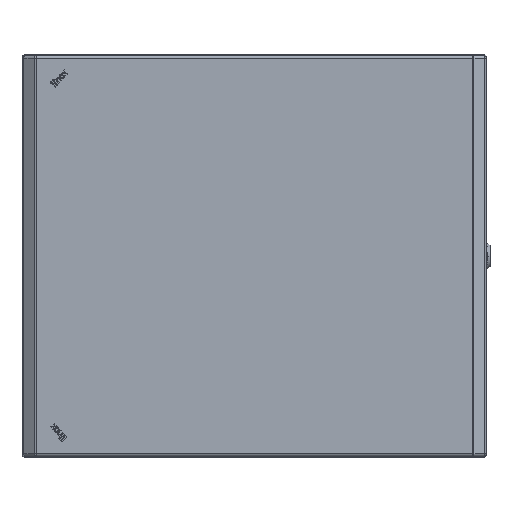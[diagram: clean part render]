
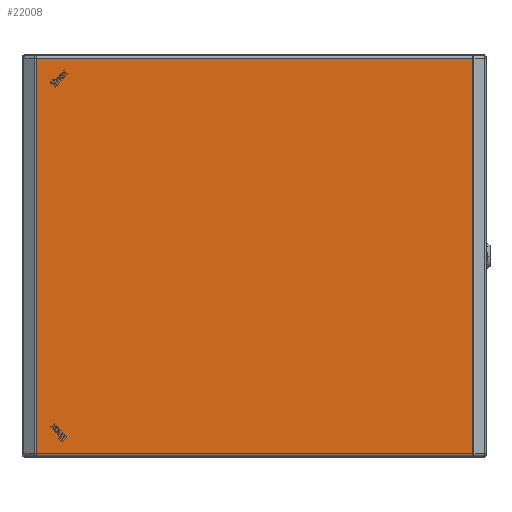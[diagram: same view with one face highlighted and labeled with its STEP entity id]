
A CAD part, top view. The second image highlights one B-rep face of the part: STEP entity #22008.
In plain terms, the highlighted planar face has unit normal (0, 0, 1).
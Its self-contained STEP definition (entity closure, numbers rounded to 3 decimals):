
#102 = LINE ( 'NONE', #18880, #27139 ) ;
#1866 = DIRECTION ( 'NONE',  ( -1., 0., 0. ) ) ;
#2024 = DIRECTION ( 'NONE',  ( 1., 0., 0. ) ) ;
#3220 = CARTESIAN_POINT ( 'NONE',  ( -244.294, 221.35, 26.5 ) ) ;
#4021 = CARTESIAN_POINT ( 'NONE',  ( -245.25, 221.35, 26.5 ) ) ;
#4104 = VECTOR ( 'NONE', #8119, 1000. ) ;
#4265 = VERTEX_POINT ( 'NONE', #29230 ) ;
#4314 = DIRECTION ( 'NONE',  ( 0., 0., 1. ) ) ;
#4404 = VERTEX_POINT ( 'NONE', #3220 ) ;
#4420 = VERTEX_POINT ( 'NONE', #19853 ) ;
#4750 = ORIENTED_EDGE ( 'NONE', *, *, #30169, .T. ) ;
#5829 = CARTESIAN_POINT ( 'NONE',  ( 244.294, 221.35, 26.5 ) ) ;
#5975 = EDGE_LOOP ( 'NONE', ( #7296, #4750, #13158, #10211 ) ) ;
#6546 = LINE ( 'NONE', #21992, #4104 ) ;
#6712 = EDGE_CURVE ( 'NONE', #4404, #4265, #6546, .T. ) ;
#6774 = FACE_OUTER_BOUND ( 'NONE', #5975, .T. ) ;
#7296 = ORIENTED_EDGE ( 'NONE', *, *, #6712, .T. ) ;
#8119 = DIRECTION ( 'NONE',  ( 0., -1., 0. ) ) ;
#9226 = CARTESIAN_POINT ( 'NONE',  ( 259.35, -224.35, 26.5 ) ) ;
#9311 = EDGE_CURVE ( 'NONE', #29526, #4404, #24502, .T. ) ;
#10211 = ORIENTED_EDGE ( 'NONE', *, *, #9311, .T. ) ;
#11309 = LINE ( 'NONE', #20423, #13796 ) ;
#11827 = AXIS2_PLACEMENT_3D ( 'NONE', #9226, #4314, #2024 ) ;
#13158 = ORIENTED_EDGE ( 'NONE', *, *, #29977, .T. ) ;
#13796 = VECTOR ( 'NONE', #30106, 1000. ) ;
#18880 = CARTESIAN_POINT ( 'NONE',  ( 245.25, -221.35, 26.5 ) ) ;
#19853 = CARTESIAN_POINT ( 'NONE',  ( 244.294, -221.35, 26.5 ) ) ;
#20423 = CARTESIAN_POINT ( 'NONE',  ( 244.294, -224.35, 26.5 ) ) ;
#21992 = CARTESIAN_POINT ( 'NONE',  ( -244.294, -224.35, 26.5 ) ) ;
#22008 = ADVANCED_FACE ( 'NONE', ( #6774 ), #25569, .T. ) ;
#22108 = VECTOR ( 'NONE', #1866, 1000. ) ;
#24502 = LINE ( 'NONE', #4021, #22108 ) ;
#25569 = PLANE ( 'NONE',  #11827 ) ;
#27139 = VECTOR ( 'NONE', #28545, 1000. ) ;
#28545 = DIRECTION ( 'NONE',  ( 1., 0., 0. ) ) ;
#29230 = CARTESIAN_POINT ( 'NONE',  ( -244.294, -221.35, 26.5 ) ) ;
#29526 = VERTEX_POINT ( 'NONE', #5829 ) ;
#29977 = EDGE_CURVE ( 'NONE', #4420, #29526, #11309, .T. ) ;
#30106 = DIRECTION ( 'NONE',  ( 0., 1., 0. ) ) ;
#30169 = EDGE_CURVE ( 'NONE', #4265, #4420, #102, .T. ) ;
